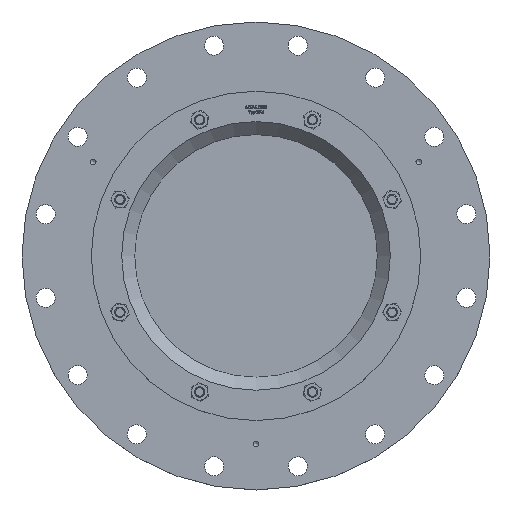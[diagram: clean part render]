
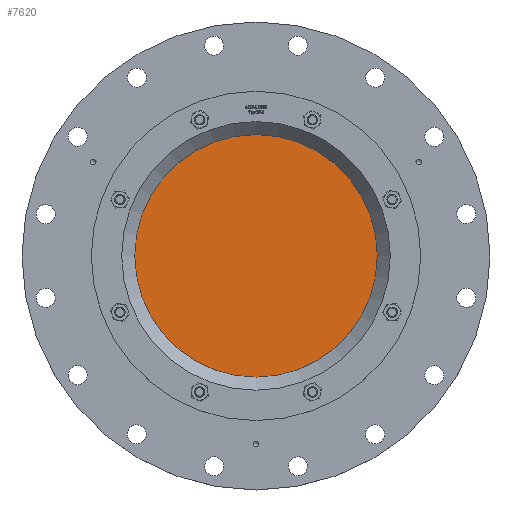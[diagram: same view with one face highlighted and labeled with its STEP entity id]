
A CAD part, top view. The second image highlights one B-rep face of the part: STEP entity #7620.
In plain terms, the highlighted planar face has unit normal (0, 0, 1).
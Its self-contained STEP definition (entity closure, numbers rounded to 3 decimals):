
#1791=FACE_OUTER_BOUND('',#2260,.T.);
#2260=EDGE_LOOP('',(#4826));
#2849=CIRCLE('',#8093,140.);
#3031=VERTEX_POINT('',#10183);
#3747=EDGE_CURVE('',#3031,#3031,#2849,.T.);
#4826=ORIENTED_EDGE('',*,*,#3747,.F.);
#6968=PLANE('',#8092);
#7620=ADVANCED_FACE('',(#1791),#6968,.F.);
#8092=AXIS2_PLACEMENT_3D('',#10182,#8639,#8640);
#8093=AXIS2_PLACEMENT_3D('',#10184,#8641,#8642);
#8639=DIRECTION('center_axis',(0.,0.,-1.));
#8640=DIRECTION('ref_axis',(-1.,0.,0.));
#8641=DIRECTION('center_axis',(0.,0.,-1.));
#8642=DIRECTION('ref_axis',(-1.,0.,0.));
#10182=CARTESIAN_POINT('Origin',(0.,0.,66.));
#10183=CARTESIAN_POINT('',(140.,0.,66.));
#10184=CARTESIAN_POINT('Origin',(0.,0.,66.));
